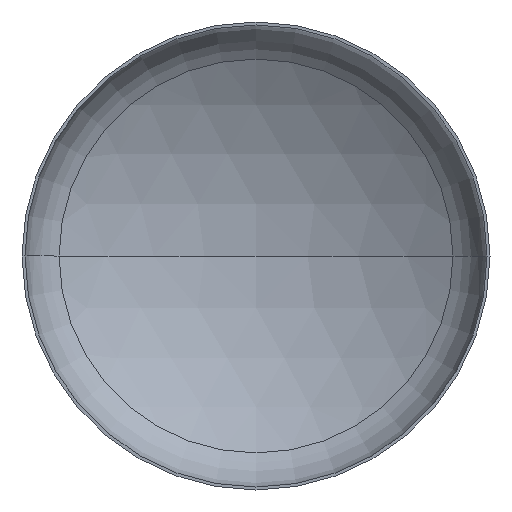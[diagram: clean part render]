
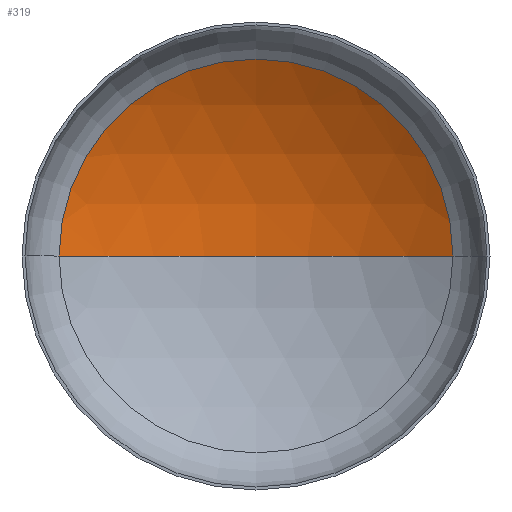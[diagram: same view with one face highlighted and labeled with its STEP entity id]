
A CAD part, front view. The second image highlights one B-rep face of the part: STEP entity #319.
In plain terms, the highlighted spherical face has radius 3040 mm.
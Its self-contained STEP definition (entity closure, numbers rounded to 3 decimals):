
#6 = EDGE_LOOP ( 'NONE', ( #58, #44, #17 ) ) ;
#8 = DIRECTION ( 'NONE',  ( 0., -1., 0. ) ) ;
#14 = CARTESIAN_POINT ( 'NONE',  ( 0., 572.582, 0. ) ) ;
#17 = ORIENTED_EDGE ( 'NONE', *, *, #214, .T. ) ;
#44 = ORIENTED_EDGE ( 'NONE', *, *, #217, .T. ) ;
#58 = ORIENTED_EDGE ( 'NONE', *, *, #222, .F. ) ;
#78 = VERTEX_POINT ( 'NONE', #242 ) ;
#92 = AXIS2_PLACEMENT_3D ( 'NONE', #327, #152, #298 ) ;
#94 = VERTEX_POINT ( 'NONE', #244 ) ;
#103 = VERTEX_POINT ( 'NONE', #234 ) ;
#121 = AXIS2_PLACEMENT_3D ( 'NONE', #196, #212, #209 ) ;
#128 = AXIS2_PLACEMENT_3D ( 'NONE', #14, #8, #280 ) ;
#131 = AXIS2_PLACEMENT_3D ( 'NONE', #218, #260, #405 ) ;
#152 = DIRECTION ( 'NONE',  ( 0., 0., -1. ) ) ;
#196 = CARTESIAN_POINT ( 'NONE',  ( 0., -2013.144, 0. ) ) ;
#209 = DIRECTION ( 'NONE',  ( 1., 0., 0. ) ) ;
#212 = DIRECTION ( 'NONE',  ( 0., 0., 1. ) ) ;
#214 = EDGE_CURVE ( 'NONE', #94, #103, #356, .T. ) ;
#217 = EDGE_CURVE ( 'NONE', #78, #94, #239, .T. ) ;
#218 = CARTESIAN_POINT ( 'NONE',  ( 0., -2013.144, 0. ) ) ;
#222 = EDGE_CURVE ( 'NONE', #78, #103, #408, .T. ) ;
#234 = CARTESIAN_POINT ( 'NONE',  ( -1598.631, 572.582, 0. ) ) ;
#239 = CIRCLE ( 'NONE', #131, 3040. ) ;
#242 = CARTESIAN_POINT ( 'NONE',  ( 0., 1026.856, 0. ) ) ;
#244 = CARTESIAN_POINT ( 'NONE',  ( 1598.631, 572.582, 0. ) ) ;
#260 = DIRECTION ( 'NONE',  ( 0., 0., -1. ) ) ;
#280 = DIRECTION ( 'NONE',  ( 1., 0., 0. ) ) ;
#298 = DIRECTION ( 'NONE',  ( -1., 0., 0. ) ) ;
#319 = ADVANCED_FACE ( 'NONE', ( #341 ), #392, .F. ) ;
#327 = CARTESIAN_POINT ( 'NONE',  ( 0., -2013.144, 0. ) ) ;
#341 = FACE_OUTER_BOUND ( 'NONE', #6, .T. ) ;
#356 = CIRCLE ( 'NONE', #128, 1598.631 ) ;
#392 = SPHERICAL_SURFACE ( 'NONE', #92, 3040. ) ;
#405 = DIRECTION ( 'NONE',  ( -1., 0., 0. ) ) ;
#408 = CIRCLE ( 'NONE', #121, 3040. ) ;
